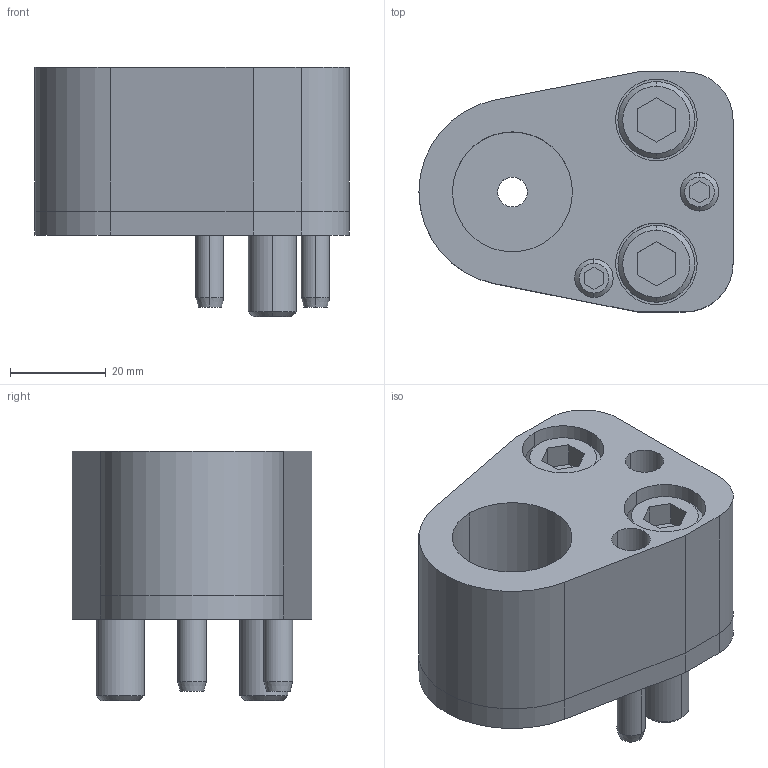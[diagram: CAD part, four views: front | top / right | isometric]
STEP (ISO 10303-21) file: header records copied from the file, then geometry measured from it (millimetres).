
FILE_DESCRIPTION(/* description */ (''),/* implementation_level */ '2;1');
FILE_NAME(/* name */ '3d_dp-ap25_02806_r00.stp',/* time_stamp */ '2011-01-10T14:15:57+09:00',/* author */ ('MISUMI'),/* organization */ (''),/* preprocessor_version */ 'ST-DEVELOPER v11',/* originating_system */ 'UGS - NX 5.0',/* authorisation */ '');
FILE_SCHEMA (('CONFIG_CONTROL_DESIGN'));
Length unit declared in the file: millimetre
Products named in the file (1): 3d_dp-ap25_02806_r00
Bounding box: 65.5 x 50 x 52 mm (x, y, z)
Volume: 78656.3 mm3; surface area: 29154 mm2
Topology: 8 solids, 8 shells, 155 faces, 346 edges, 222 vertices
Faces by surface type: plane 67, cylinder 62, cone 26
Entity records: 4480 total; most frequent: DIRECTION 804, CARTESIAN_POINT 778, ORIENTED_EDGE 692, EDGE_CURVE 346, AXIS2_PLACEMENT_3D 306, VERTEX_POINT 222, LINE 192, VECTOR 192
